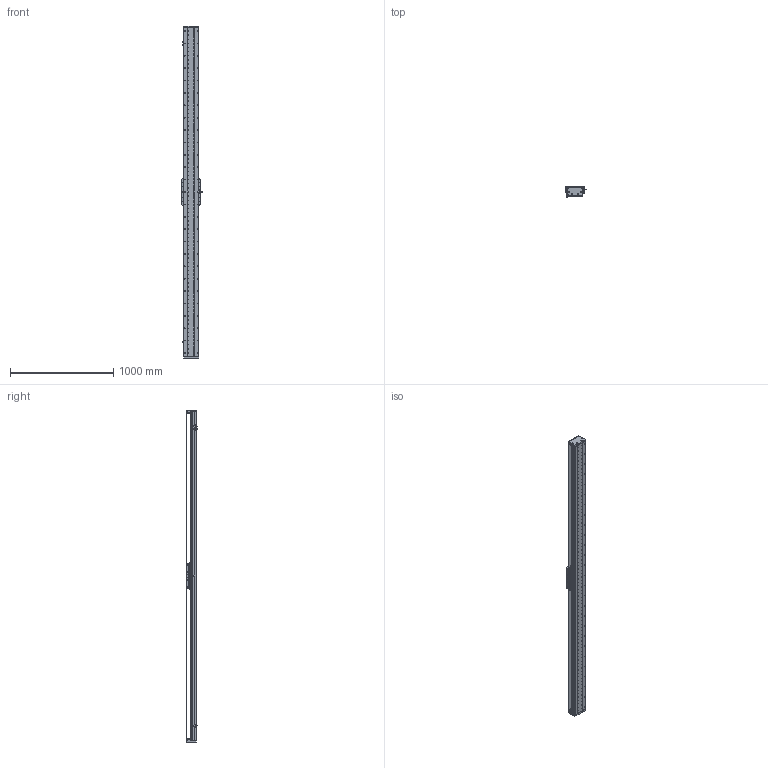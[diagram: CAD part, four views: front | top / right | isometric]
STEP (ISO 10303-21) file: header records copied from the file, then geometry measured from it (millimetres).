
FILE_DESCRIPTION (( 'STEP AP203' ), '1' );
FILE_NAME ('DA-C145-C3-T2880-C010-0.2 眻盄萇儂.STEP', '2025-08-14T01:35:51', ( '' ), ( '' ), 'SwSTEP 2.0', 'SolidWorks 2019', '' );
FILE_SCHEMA (( 'CONFIG_CONTROL_DESIGN' ));
Length unit declared in the file: millimetre
Products named in the file (32): 复件 内六角平端紧定螺钉 GB.T77-2000 M5×10^CU145-W 滚珠滑台; 葩璃 CU145 詩湍郪璃^DA-C145-C3-T-C010-0.2; 葩璃 CKMA01-W060-TRL^DA-C145-C3-T-C010-0.2; 复件 DA146 钢带拉块^复件 CU145 钢带组件_DA-C145-C3-T-C010-0.2; 葩璃 鞠褒情蹟譫 M3^DA-C145-C3-T-C010-0.2; 葩璃 XD-U-02L 棠掑喜^DA-C145-C3-T-C010-0.2; 复件 DA95-DB-00  挡板^CU145-W 滚珠滑台; 葩璃 DA145-C3-DP-B-00 菜えB^CU145-W 幗紩賑怢; 葩璃 DMA-010-0.2 黍杅芛^DA-C145-C3-T-C010-0.2; 葩璃 PM-T45^DA-C145-C3-T-C010-0.2; 复件 DA95-MFP-01 密封片^CU145-W 滚珠滑台; 葩璃 DA145-C3-DP-A-00 菜えA^CU145-W 幗紩賑怢; 复件 DA146 钢带垫块^复件 CU145 钢带组件_DA-C145-C3-T-C010-0.2; CU145-W-00 珨极趙賑雄怢啣; 葩璃 DA95-GT-T-00^IU-CU145-L 菁釱絳寢; IU-CU145-L-00 菁釱(L3180); 复件 DA145-C3-YB-A-00 压板A^CU145-W 滚珠滑台; 葩璃 CKM03-W060-C1C2-TP-0.2^DA-C145-C3-T-C010-0.2; IU-CU145-L 菁釱絳寢; 复件 DA145-GYP-00 光电感应片^DA-C145-C3-T-C010-0.2; 复件 DA145-C3-YB-B-00 压板B^CU145-W 滚珠滑台; 复件 纯铜油杯 6x6mm^CU145-W 滚珠滑台; TAY01-M8; CU145-W 幗紩賑怢; 复件 半圆头内六角螺钉 M3×6^CU145-W 滚珠滑台; 复件 DA145-DG 钢带端盖^复件 CU145 钢带组件_DA-C145-C3-T-C010-0.2; 复件 DA145-C3-DK-00 挡块^CU145-W 滚珠滑台; 复件 DA95-HK-GT-00 滑块钢轨^CU145-W-00 一体化滑动台板; 葩璃 DA95-HXJ-00 遣喳砎蝶^DA-C145-C3-T-C010-0.2; DA-C145-C3-T2880-C010-0.2 眻盄萇儂; 66245-CU145-HT-W-00 賑雄怢啣(3D芞祧)(00); 复件 DA145 钢带^复件 CU145 钢带组件_DA-C145-C3-T-C010-0.2
Assembly tree (103 placements, depth 4):
  DA-C145-C3-T2880-C010-0.2 眻盄萇儂
    IU-CU145-L 菁釱絳寢
      IU-CU145-L-00 菁釱(L3180)
      葩璃 DA95-GT-T-00^IU-CU145-L 菁釱絳寢  x4
    葩璃 CU145 詩湍郪璃^DA-C145-C3-T-C010-0.2
      复件 DA145-DG 钢带端盖^复件 CU145 钢带组件_DA-C145-C3-T-C010-0.2  x2
      复件 DA146 钢带拉块^复件 CU145 钢带组件_DA-C145-C3-T-C010-0.2  x2
      复件 DA146 钢带垫块^复件 CU145 钢带组件_DA-C145-C3-T-C010-0.2  x2
      复件 DA145 钢带^复件 CU145 钢带组件_DA-C145-C3-T-C010-0.2
    CU145-W 幗紩賑怢
      CU145-W-00 珨极趙賑雄怢啣
        66245-CU145-HT-W-00 賑雄怢啣(3D芞祧)(00)
        复件 DA95-HK-GT-00 滑块钢轨^CU145-W-00 一体化滑动台板  x8
      复件 DA95-MFP-01 密封片^CU145-W 滚珠滑台  x8
      复件 DA95-DB-00  挡板^CU145-W 滚珠滑台  x8
      复件 内六角平端紧定螺钉 GB.T77-2000 M5×10^CU145-W 滚珠滑台  x4
      复件 纯铜油杯 6x6mm^CU145-W 滚珠滑台  x4
      复件 半圆头内六角螺钉 M3×6^CU145-W 滚珠滑台  x16
      复件 DA145-C3-DK-00 挡块^CU145-W 滚珠滑台  x4
      葩璃 DA145-C3-DP-B-00 菜えB^CU145-W 幗紩賑怢  x2
      复件 DA145-C3-YB-B-00 压板B^CU145-W 滚珠滑台  x2
      葩璃 DA145-C3-DP-A-00 菜えA^CU145-W 幗紩賑怢  x3
      复件 DA145-C3-YB-A-00 压板A^CU145-W 滚珠滑台  x3
      TAY01-M8  x4
    葩璃 CKMA01-W060-TRL^DA-C145-C3-T-C010-0.2
    葩璃 PM-T45^DA-C145-C3-T-C010-0.2  x3
    葩璃 XD-U-02L 棠掑喜^DA-C145-C3-T-C010-0.2
    葩璃 DA95-HXJ-00 遣喳砎蝶^DA-C145-C3-T-C010-0.2  x4
    复件 DA145-GYP-00 光电感应片^DA-C145-C3-T-C010-0.2
    葩璃 DMA-010-0.2 黍杅芛^DA-C145-C3-T-C010-0.2
    葩璃 CKM03-W060-C1C2-TP-0.2^DA-C145-C3-T-C010-0.2
    葩璃 鞠褒情蹟譫 M3^DA-C145-C3-T-C010-0.2  x8
Bounding box: 203.5 x 108.45 x 3216 mm (x, y, z)
Volume: 14656149.1 mm3; surface area: 4957431.4 mm2
Topology: 99 solids, 131 shells, 4888 faces, 14264 edges, 8974 vertices
Faces by surface type: cylinder 2514, plane 1606, cone 690, torus 74, sphere 4
Entity records: 142154 total; most frequent: CARTESIAN_POINT 44076, ORIENTED_EDGE 20048, DIRECTION 18719, EDGE_CURVE 10024, AXIS2_PLACEMENT_3D 7044, VERTEX_POINT 6513, VECTOR 4631, LINE 4631
